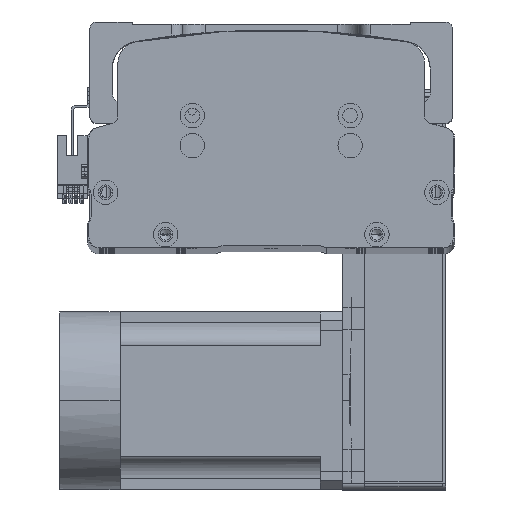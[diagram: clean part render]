
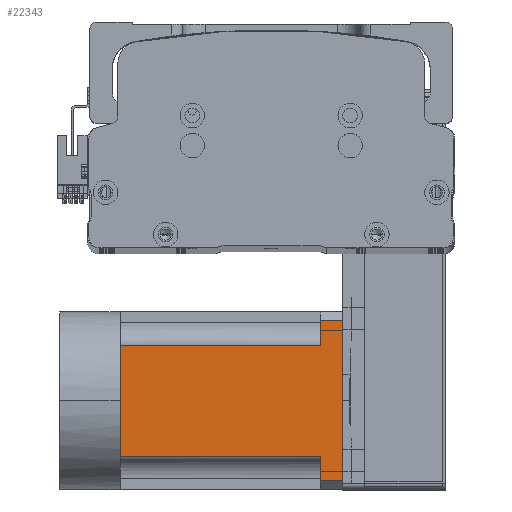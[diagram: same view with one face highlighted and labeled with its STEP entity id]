
A CAD part, top view. The second image highlights one B-rep face of the part: STEP entity #22343.
In plain terms, the highlighted planar face has unit normal (0, 0, 1) as drawn and (0, 0, -1) by its records, which use the part's own axes.
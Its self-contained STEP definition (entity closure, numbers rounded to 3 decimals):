
#30 = VECTOR ( 'NONE', #67162, 1000. ) ;
#1265 = VERTEX_POINT ( 'NONE', #40781 ) ;
#1461 = CARTESIAN_POINT ( 'NONE',  ( 36., -27., -40. ) ) ;
#1786 = CARTESIAN_POINT ( 'NONE',  ( 25., 90., -40. ) ) ;
#3282 = VECTOR ( 'NONE', #9926, 1000. ) ;
#4398 = LINE ( 'NONE', #60862, #56318 ) ;
#4668 = VECTOR ( 'NONE', #55424, 1000. ) ;
#5308 = DIRECTION ( 'NONE',  ( 0., 1., 0. ) ) ;
#6320 = LINE ( 'NONE', #50188, #4668 ) ;
#6739 = VERTEX_POINT ( 'NONE', #1786 ) ;
#6757 = DIRECTION ( 'NONE',  ( 0., -1., 0. ) ) ;
#6889 = EDGE_CURVE ( 'NONE', #6739, #16738, #42742, .T. ) ;
#8327 = DIRECTION ( 'NONE',  ( 0., 0., -1. ) ) ;
#9926 = DIRECTION ( 'NONE',  ( -1., 0., 0. ) ) ;
#10971 = CARTESIAN_POINT ( 'NONE',  ( 36., 90., -40. ) ) ;
#13286 = PLANE ( 'NONE',  #25357 ) ;
#14180 = CARTESIAN_POINT ( 'NONE',  ( -40., 100., -40. ) ) ;
#15712 = EDGE_CURVE ( 'NONE', #46005, #15909, #4398, .T. ) ;
#15909 = VERTEX_POINT ( 'NONE', #20891 ) ;
#16738 = VERTEX_POINT ( 'NONE', #44563 ) ;
#16790 = CARTESIAN_POINT ( 'NONE',  ( -25., 0., -40. ) ) ;
#17129 = LINE ( 'NONE', #40989, #3282 ) ;
#17567 = CARTESIAN_POINT ( 'NONE',  ( -25., 90., -40. ) ) ;
#17982 = CARTESIAN_POINT ( 'NONE',  ( -36., 100., -40. ) ) ;
#18136 = VERTEX_POINT ( 'NONE', #17982 ) ;
#18633 = CARTESIAN_POINT ( 'NONE',  ( 25., -27., -40. ) ) ;
#18941 = LINE ( 'NONE', #25921, #57031 ) ;
#19339 = DIRECTION ( 'NONE',  ( -1., 0., 0. ) ) ;
#20891 = CARTESIAN_POINT ( 'NONE',  ( -36., 90., -40. ) ) ;
#20971 = EDGE_CURVE ( 'NONE', #1265, #18136, #23997, .T. ) ;
#21321 = ORIENTED_EDGE ( 'NONE', *, *, #15712, .T. ) ;
#21326 = ORIENTED_EDGE ( 'NONE', *, *, #6889, .T. ) ;
#22343 = ADVANCED_FACE ( 'NONE', ( #48736 ), #13286, .T. ) ;
#23764 = CARTESIAN_POINT ( 'NONE',  ( -40., -27., -40. ) ) ;
#23997 = LINE ( 'NONE', #14180, #63724 ) ;
#24617 = ORIENTED_EDGE ( 'NONE', *, *, #50545, .T. ) ;
#25357 = AXIS2_PLACEMENT_3D ( 'NONE', #23764, #8327, #44580 ) ;
#25708 = LINE ( 'NONE', #1461, #65449 ) ;
#25921 = CARTESIAN_POINT ( 'NONE',  ( -36., -27., -40. ) ) ;
#27632 = DIRECTION ( 'NONE',  ( -1., 0., 0. ) ) ;
#30911 = CARTESIAN_POINT ( 'NONE',  ( -25., -27., -40. ) ) ;
#38969 = EDGE_CURVE ( 'NONE', #1265, #41642, #25708, .T. ) ;
#40509 = VERTEX_POINT ( 'NONE', #16790 ) ;
#40781 = CARTESIAN_POINT ( 'NONE',  ( 36., 100., -40. ) ) ;
#40989 = CARTESIAN_POINT ( 'NONE',  ( -40., 0., -40. ) ) ;
#41571 = EDGE_CURVE ( 'NONE', #15909, #18136, #18941, .T. ) ;
#41642 = VERTEX_POINT ( 'NONE', #10971 ) ;
#42355 = EDGE_CURVE ( 'NONE', #41642, #6739, #44745, .T. ) ;
#42742 = LINE ( 'NONE', #18633, #67037 ) ;
#44563 = CARTESIAN_POINT ( 'NONE',  ( 25., 0., -40. ) ) ;
#44580 = DIRECTION ( 'NONE',  ( -1., 0., 0. ) ) ;
#44745 = LINE ( 'NONE', #63927, #55250 ) ;
#46005 = VERTEX_POINT ( 'NONE', #17567 ) ;
#47494 = EDGE_LOOP ( 'NONE', ( #66313, #55235, #63488, #21326, #50107, #24617, #59816, #21321, #49082 ) ) ;
#48736 = FACE_OUTER_BOUND ( 'NONE', #47494, .T. ) ;
#49082 = ORIENTED_EDGE ( 'NONE', *, *, #41571, .T. ) ;
#49175 = EDGE_CURVE ( 'NONE', #16738, #61989, #17129, .T. ) ;
#49659 = DIRECTION ( 'NONE',  ( 0., -1., 0. ) ) ;
#50107 = ORIENTED_EDGE ( 'NONE', *, *, #49175, .T. ) ;
#50188 = CARTESIAN_POINT ( 'NONE',  ( -40., 0., -40. ) ) ;
#50420 = DIRECTION ( 'NONE',  ( -1., 0., 0. ) ) ;
#50545 = EDGE_CURVE ( 'NONE', #61989, #40509, #6320, .T. ) ;
#55235 = ORIENTED_EDGE ( 'NONE', *, *, #38969, .T. ) ;
#55250 = VECTOR ( 'NONE', #27632, 1000. ) ;
#55424 = DIRECTION ( 'NONE',  ( -1., 0., 0. ) ) ;
#56318 = VECTOR ( 'NONE', #19339, 1000. ) ;
#57031 = VECTOR ( 'NONE', #5308, 1000. ) ;
#59816 = ORIENTED_EDGE ( 'NONE', *, *, #65074, .T. ) ;
#60862 = CARTESIAN_POINT ( 'NONE',  ( -40., 90., -40. ) ) ;
#61989 = VERTEX_POINT ( 'NONE', #67140 ) ;
#63488 = ORIENTED_EDGE ( 'NONE', *, *, #42355, .T. ) ;
#63724 = VECTOR ( 'NONE', #50420, 1000. ) ;
#63927 = CARTESIAN_POINT ( 'NONE',  ( -40., 90., -40. ) ) ;
#64191 = LINE ( 'NONE', #30911, #30 ) ;
#65074 = EDGE_CURVE ( 'NONE', #40509, #46005, #64191, .T. ) ;
#65449 = VECTOR ( 'NONE', #6757, 1000. ) ;
#66313 = ORIENTED_EDGE ( 'NONE', *, *, #20971, .F. ) ;
#67037 = VECTOR ( 'NONE', #49659, 1000. ) ;
#67140 = CARTESIAN_POINT ( 'NONE',  ( 0., 0., -40. ) ) ;
#67162 = DIRECTION ( 'NONE',  ( 0., 1., 0. ) ) ;
